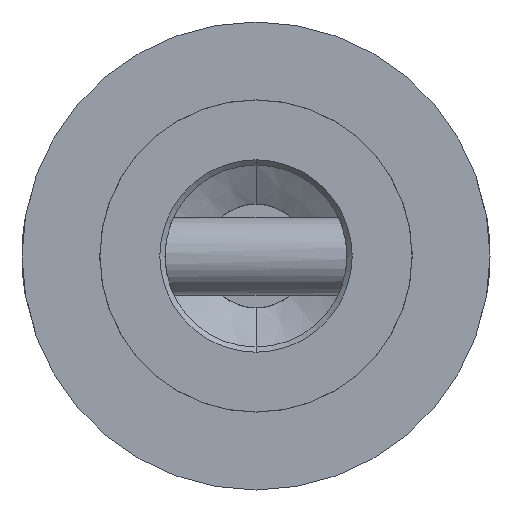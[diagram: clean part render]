
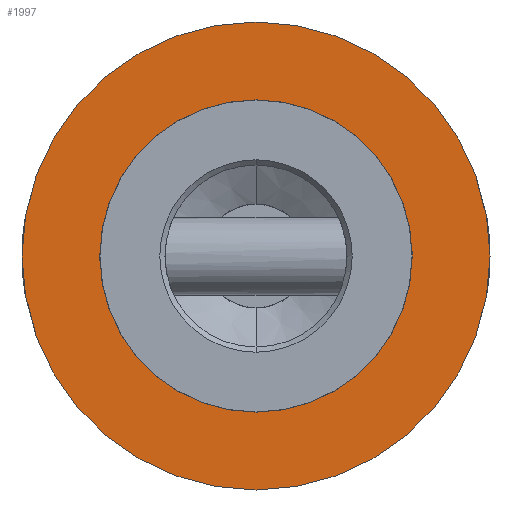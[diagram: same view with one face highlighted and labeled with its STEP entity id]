
A CAD part, front view. The second image highlights one B-rep face of the part: STEP entity #1997.
In plain terms, the highlighted planar face has unit normal (0, -1, 0).
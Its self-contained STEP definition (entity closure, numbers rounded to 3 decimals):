
#40 = DIRECTION ( 'NONE',  ( 0., -1., 0. ) ) ;
#65 = DIRECTION ( 'NONE',  ( 0., 0., -1. ) ) ;
#146 = EDGE_CURVE ( 'NONE', #822, #1303, #934, .T. ) ;
#192 = CARTESIAN_POINT ( 'NONE',  ( 0., -600., -9. ) ) ;
#246 = ORIENTED_EDGE ( 'NONE', *, *, #1358, .T. ) ;
#286 = VERTEX_POINT ( 'NONE', #192 ) ;
#822 = VERTEX_POINT ( 'NONE', #903 ) ;
#824 = DIRECTION ( 'NONE',  ( 0., -1., 0. ) ) ;
#903 = CARTESIAN_POINT ( 'NONE',  ( 0., -600., 6.005 ) ) ;
#933 = EDGE_CURVE ( 'NONE', #1303, #822, #2823, .T. ) ;
#934 = CIRCLE ( 'NONE', #1370, 6.005 ) ;
#991 = EDGE_LOOP ( 'NONE', ( #1030, #1572 ) ) ;
#1000 = CIRCLE ( 'NONE', #1457, 9. ) ;
#1030 = ORIENTED_EDGE ( 'NONE', *, *, #933, .F. ) ;
#1048 = DIRECTION ( 'NONE',  ( 0., 0., -1. ) ) ;
#1303 = VERTEX_POINT ( 'NONE', #2583 ) ;
#1329 = CARTESIAN_POINT ( 'NONE',  ( 0., -600., 0. ) ) ;
#1358 = EDGE_CURVE ( 'NONE', #1969, #286, #1643, .T. ) ;
#1366 = PLANE ( 'NONE',  #2553 ) ;
#1370 = AXIS2_PLACEMENT_3D ( 'NONE', #1856, #2618, #2340 ) ;
#1442 = DIRECTION ( 'NONE',  ( 0., -1., 0. ) ) ;
#1457 = AXIS2_PLACEMENT_3D ( 'NONE', #2134, #824, #3444 ) ;
#1559 = CARTESIAN_POINT ( 'NONE',  ( 0., -600., 9. ) ) ;
#1572 = ORIENTED_EDGE ( 'NONE', *, *, #146, .F. ) ;
#1643 = CIRCLE ( 'NONE', #2649, 9. ) ;
#1702 = AXIS2_PLACEMENT_3D ( 'NONE', #3145, #3449, #1048 ) ;
#1856 = CARTESIAN_POINT ( 'NONE',  ( 0., -600., 0. ) ) ;
#1969 = VERTEX_POINT ( 'NONE', #1559 ) ;
#1997 = ADVANCED_FACE ( 'NONE', ( #2040, #2672 ), #1366, .T. ) ;
#2040 = FACE_BOUND ( 'NONE', #991, .T. ) ;
#2134 = CARTESIAN_POINT ( 'NONE',  ( 0., -600., 0. ) ) ;
#2180 = EDGE_CURVE ( 'NONE', #286, #1969, #1000, .T. ) ;
#2340 = DIRECTION ( 'NONE',  ( 0., 0., -1. ) ) ;
#2474 = CARTESIAN_POINT ( 'NONE',  ( 0., -600., 0. ) ) ;
#2553 = AXIS2_PLACEMENT_3D ( 'NONE', #1329, #40, #2983 ) ;
#2583 = CARTESIAN_POINT ( 'NONE',  ( 0., -600., -6.005 ) ) ;
#2618 = DIRECTION ( 'NONE',  ( 0., -1., 0. ) ) ;
#2643 = ORIENTED_EDGE ( 'NONE', *, *, #2180, .T. ) ;
#2649 = AXIS2_PLACEMENT_3D ( 'NONE', #2474, #1442, #65 ) ;
#2672 = FACE_OUTER_BOUND ( 'NONE', #2838, .T. ) ;
#2823 = CIRCLE ( 'NONE', #1702, 6.005 ) ;
#2838 = EDGE_LOOP ( 'NONE', ( #2643, #246 ) ) ;
#2983 = DIRECTION ( 'NONE',  ( 0., 0., -1. ) ) ;
#3145 = CARTESIAN_POINT ( 'NONE',  ( 0., -600., 0. ) ) ;
#3444 = DIRECTION ( 'NONE',  ( 0., 0., -1. ) ) ;
#3449 = DIRECTION ( 'NONE',  ( 0., -1., 0. ) ) ;
